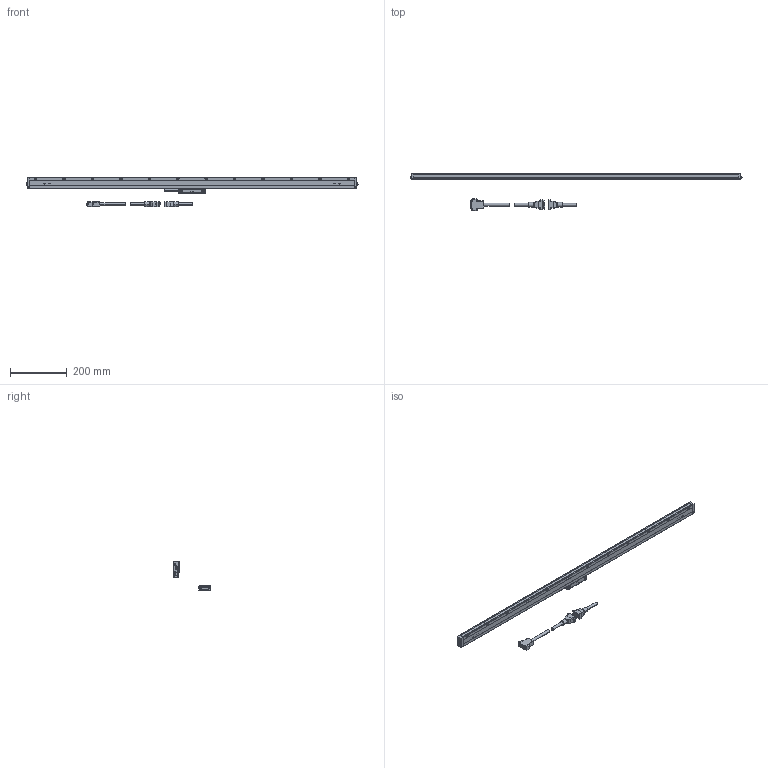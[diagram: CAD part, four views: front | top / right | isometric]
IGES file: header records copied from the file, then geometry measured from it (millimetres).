
Start section: Elysium IGES Interface
Global section: file name: 74H\\Utsu119s\kiyo_cad\data\3D\AT211\HP掲載用_201803\多点固定\AT211-1000A.igs; native system: Creo Elements/Direct Modeling 18.1B  29-Sep-2012; preprocessor: Creo Element/Direct IGES_3D V2.2; author: Unknown; organization: Unknown; date: 20180315.102108; units: millimetre
Bounding box: 1167.12 x 130.6 x 105 mm (x, y, z)
Volume: 985186.1 mm3; surface area: 190493.3 mm2
Topology: 5 solids, 5 shells, 1099 faces, 2640 edges, 1560 vertices
Faces by surface type: bspline 1099
